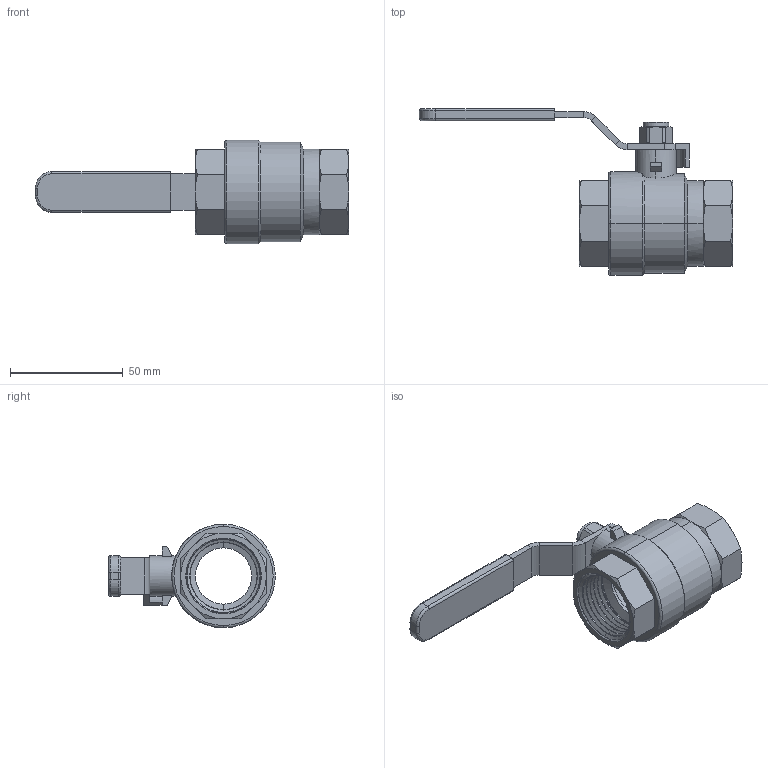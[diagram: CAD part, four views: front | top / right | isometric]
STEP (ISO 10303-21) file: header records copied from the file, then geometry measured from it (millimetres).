
FILE_DESCRIPTION (( 'STEP AP203' ), '1' );
FILE_NAME ('KP_14-025.step', '2011-08-08T12:04:57', ( '' ), ( '' ), 'SwSTEP 2.0', 'SolidWorks 2011', '' );
FILE_SCHEMA (( 'CONFIG_CONTROL_DESIGN' ));
Length unit declared in the file: millimetre
Products named in the file (1): KP_14-025
Bounding box: 139 x 74 x 46 mm (x, y, z)
Volume: 63796.2 mm3; surface area: 35281.4 mm2
Topology: 3 solids, 3 shells, 312 faces, 721 edges, 417 vertices
Faces by surface type: cone 119, plane 79, cylinder 75, torus 35, sphere 4
Entity records: 9100 total; most frequent: CARTESIAN_POINT 1929, DIRECTION 1599, ORIENTED_EDGE 1426, EDGE_CURVE 713, AXIS2_PLACEMENT_3D 653, VERTEX_POINT 413, CIRCLE 340, EDGE_LOOP 326
